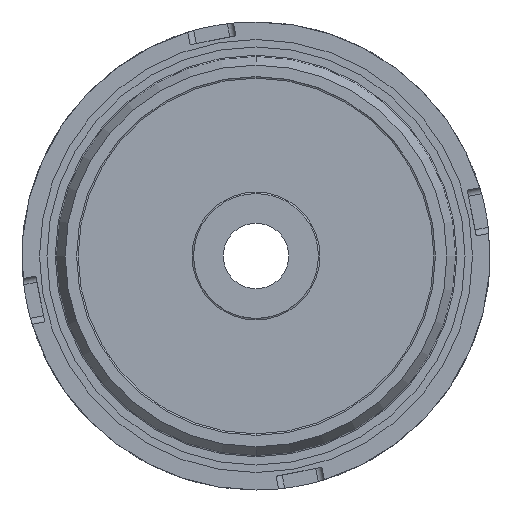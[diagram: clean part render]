
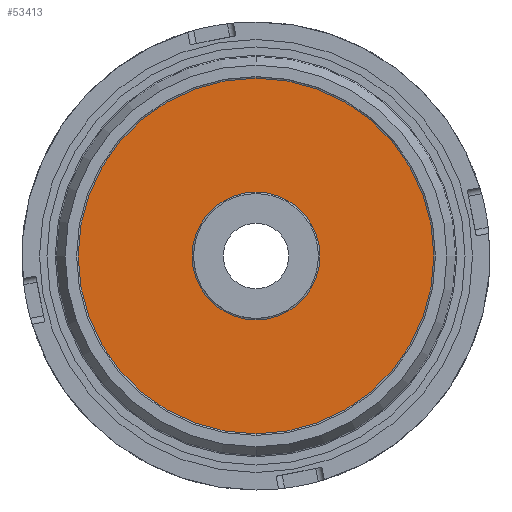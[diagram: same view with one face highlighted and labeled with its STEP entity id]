
A CAD part, front view. The second image highlights one B-rep face of the part: STEP entity #53413.
In plain terms, the highlighted planar face has unit normal (0, -1, 0).
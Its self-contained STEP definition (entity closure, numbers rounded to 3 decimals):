
#511 = AXIS2_PLACEMENT_3D ( 'NONE', #62036, #19997, #56978 ) ;
#1671 = ORIENTED_EDGE ( 'NONE', *, *, #28623, .T. ) ;
#1886 = CARTESIAN_POINT ( 'NONE',  ( 0., 6., 20.5 ) ) ;
#5135 = VERTEX_POINT ( 'NONE', #1886 ) ;
#5774 = CARTESIAN_POINT ( 'NONE',  ( 0., 6., 0. ) ) ;
#9348 = PLANE ( 'NONE',  #511 ) ;
#11069 = DIRECTION ( 'NONE',  ( 0., 0., -1. ) ) ;
#11709 = CIRCLE ( 'NONE', #68355, 57. ) ;
#11841 = AXIS2_PLACEMENT_3D ( 'NONE', #17077, #54072, #22380 ) ;
#13401 = VERTEX_POINT ( 'NONE', #64213 ) ;
#13648 = CARTESIAN_POINT ( 'NONE',  ( 0., 6., 0. ) ) ;
#16033 = EDGE_CURVE ( 'NONE', #13401, #5135, #16901, .T. ) ;
#16901 = CIRCLE ( 'NONE', #53075, 20.5 ) ;
#17077 = CARTESIAN_POINT ( 'NONE',  ( 0., 6., 0. ) ) ;
#18959 = DIRECTION ( 'NONE',  ( 0., 0., -1. ) ) ;
#19226 = DIRECTION ( 'NONE',  ( 0., 1., 0. ) ) ;
#19997 = DIRECTION ( 'NONE',  ( 0., -1., 0. ) ) ;
#22380 = DIRECTION ( 'NONE',  ( 0., 0., -1. ) ) ;
#24219 = ORIENTED_EDGE ( 'NONE', *, *, #50956, .T. ) ;
#24758 = EDGE_LOOP ( 'NONE', ( #68430, #24219 ) ) ;
#24955 = VERTEX_POINT ( 'NONE', #35702 ) ;
#26678 = CIRCLE ( 'NONE', #36214, 57. ) ;
#28623 = EDGE_CURVE ( 'NONE', #24955, #67850, #26678, .T. ) ;
#32782 = CIRCLE ( 'NONE', #11841, 20.5 ) ;
#33394 = CARTESIAN_POINT ( 'NONE',  ( 0., 6., 57. ) ) ;
#35702 = CARTESIAN_POINT ( 'NONE',  ( 0., 6., -57. ) ) ;
#36214 = AXIS2_PLACEMENT_3D ( 'NONE', #13648, #50636, #18959 ) ;
#42751 = DIRECTION ( 'NONE',  ( 0., -1., 0. ) ) ;
#43183 = EDGE_LOOP ( 'NONE', ( #1671, #54646 ) ) ;
#43223 = FACE_OUTER_BOUND ( 'NONE', #43183, .T. ) ;
#49251 = EDGE_CURVE ( 'NONE', #67850, #24955, #11709, .T. ) ;
#50636 = DIRECTION ( 'NONE',  ( 0., -1., 0. ) ) ;
#50877 = CARTESIAN_POINT ( 'NONE',  ( 0., 6., 0. ) ) ;
#50956 = EDGE_CURVE ( 'NONE', #5135, #13401, #32782, .T. ) ;
#53075 = AXIS2_PLACEMENT_3D ( 'NONE', #50877, #19226, #56215 ) ;
#53413 = ADVANCED_FACE ( 'NONE', ( #43223, #57310 ), #9348, .T. ) ;
#54072 = DIRECTION ( 'NONE',  ( 0., 1., 0. ) ) ;
#54646 = ORIENTED_EDGE ( 'NONE', *, *, #49251, .T. ) ;
#56215 = DIRECTION ( 'NONE',  ( 0., 0., -1. ) ) ;
#56978 = DIRECTION ( 'NONE',  ( 0., 0., -1. ) ) ;
#57310 = FACE_BOUND ( 'NONE', #24758, .T. ) ;
#62036 = CARTESIAN_POINT ( 'NONE',  ( 0., 6., 0. ) ) ;
#64213 = CARTESIAN_POINT ( 'NONE',  ( 0., 6., -20.5 ) ) ;
#67850 = VERTEX_POINT ( 'NONE', #33394 ) ;
#68355 = AXIS2_PLACEMENT_3D ( 'NONE', #5774, #42751, #11069 ) ;
#68430 = ORIENTED_EDGE ( 'NONE', *, *, #16033, .T. ) ;
